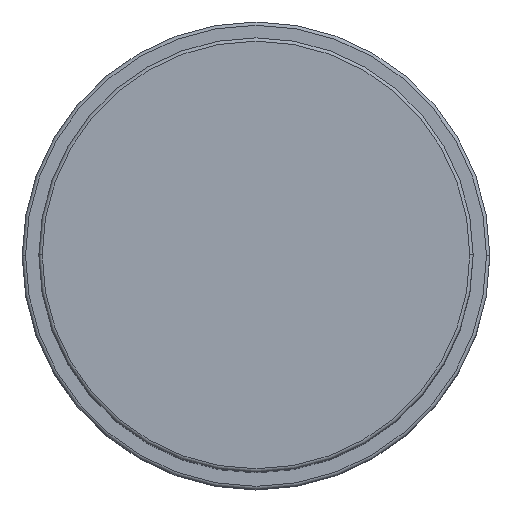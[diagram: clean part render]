
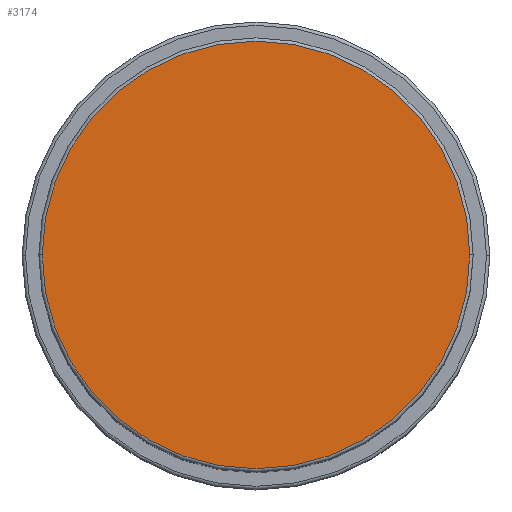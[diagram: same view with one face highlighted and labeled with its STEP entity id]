
A CAD part, top view. The second image highlights one B-rep face of the part: STEP entity #3174.
In plain terms, the highlighted planar face has unit normal (0, 0, 1).
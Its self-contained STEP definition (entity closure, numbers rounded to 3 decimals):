
#61 = DIRECTION ( 'NONE',  ( 0., 0., 1. ) ) ;
#345 = ORIENTED_EDGE ( 'NONE', *, *, #4992, .T. ) ;
#477 = DIRECTION ( 'NONE',  ( 1., 0., 0. ) ) ;
#1132 = DIRECTION ( 'NONE',  ( 1., 0., 0. ) ) ;
#1196 = EDGE_LOOP ( 'NONE', ( #345, #2883 ) ) ;
#1570 = CIRCLE ( 'NONE', #2298, 32. ) ;
#1581 = CARTESIAN_POINT ( 'NONE',  ( 0., 0., 102. ) ) ;
#1700 = DIRECTION ( 'NONE',  ( 1., 0., 0. ) ) ;
#1774 = VERTEX_POINT ( 'NONE', #2953 ) ;
#2162 = DIRECTION ( 'NONE',  ( 0., 0., 1. ) ) ;
#2298 = AXIS2_PLACEMENT_3D ( 'NONE', #2960, #61, #477 ) ;
#2883 = ORIENTED_EDGE ( 'NONE', *, *, #4958, .T. ) ;
#2953 = CARTESIAN_POINT ( 'NONE',  ( -32., 0., 102. ) ) ;
#2960 = CARTESIAN_POINT ( 'NONE',  ( 0., 0., 102. ) ) ;
#3174 = ADVANCED_FACE ( 'NONE', ( #5308 ), #4930, .T. ) ;
#3744 = CARTESIAN_POINT ( 'NONE',  ( 32., 0., 102. ) ) ;
#3782 = AXIS2_PLACEMENT_3D ( 'NONE', #1581, #2162, #1132 ) ;
#3798 = DIRECTION ( 'NONE',  ( 0., 0., 1. ) ) ;
#4138 = VERTEX_POINT ( 'NONE', #3744 ) ;
#4781 = CIRCLE ( 'NONE', #5334, 32. ) ;
#4930 = PLANE ( 'NONE',  #3782 ) ;
#4958 = EDGE_CURVE ( 'NONE', #1774, #4138, #4781, .T. ) ;
#4992 = EDGE_CURVE ( 'NONE', #4138, #1774, #1570, .T. ) ;
#5122 = CARTESIAN_POINT ( 'NONE',  ( 0., 0., 102. ) ) ;
#5308 = FACE_OUTER_BOUND ( 'NONE', #1196, .T. ) ;
#5334 = AXIS2_PLACEMENT_3D ( 'NONE', #5122, #3798, #1700 ) ;
